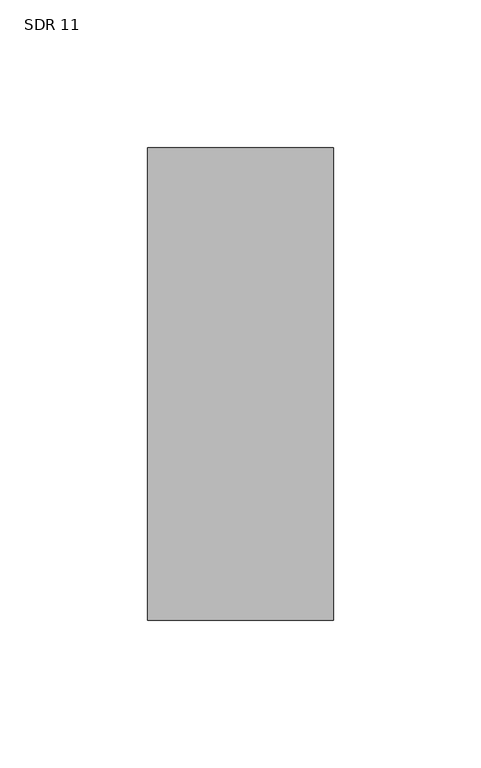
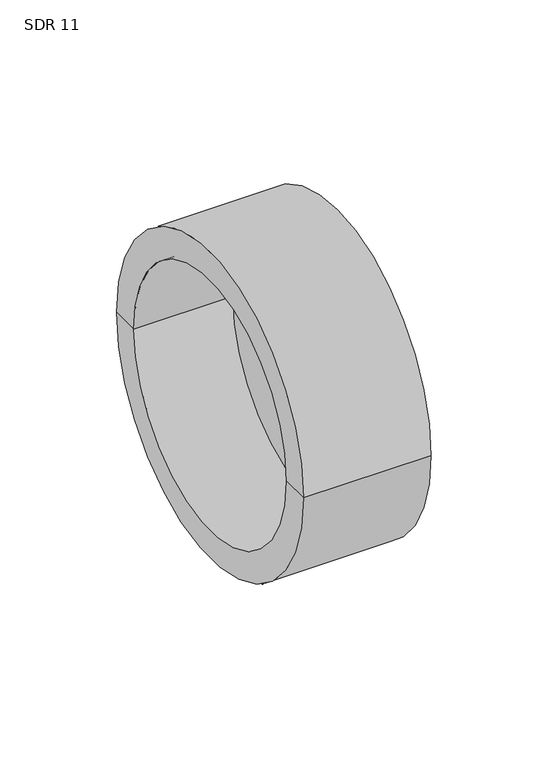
"""IFC4 building model written with IfcOpenShell, lengths in millimetres: pipe fitting geometry, Aquatherm - End Cap Butt-Weld : SDR 11."""

from ifc_helpers import new_model, si_unit, frame, origin, place, context, project, spatial, polyline, circle_curve, source, transform, mapped, element, save
from ifc_brep_helpers import plane_surface, cylinder_surface, revolved_surface, advanced_brep


def sdr_11_1a23142a(model_context):
    return source(origin(), model_context, "Body", "AdvancedBrep", [
        advanced_brep(
        [(62.992, -80.01, 0.0), (62.992, 80.01, 0.0), (62.992, 0.0, 0.0), (49.022, 0.0, 0.0), (49.022, 65.405, 0.0), (49.022, -65.405, 0.0), (0.0, 65.405, 0.0), (0.0, -65.405, 0.0), (0.0, 80.01, 0.0), (0.0, -80.01, 0.0)],
        [
            (0, 1, circle_curve(frame((62.992, 0.0, 0.0), z_axis=(1.0, 0.0, 0.0), x_axis=(0.0, 1.0, 0.0)), 80.01)),
            (1, 2),
            (2, 0),
            (1, 0, circle_curve(frame((62.992, 0.0, 0.0), z_axis=(1.0, 0.0, 0.0), x_axis=(0.0, 1.0, 0.0)), 80.01)),
            (3, 4),
            (4, 5, circle_curve(frame((49.022, 0.0, 0.0), z_axis=(-1.0, 0.0, 0.0), x_axis=(0.0, 1.0, 0.0)), 65.405)),
            (5, 3),
            (5, 4, circle_curve(frame((49.022, 0.0, 0.0), z_axis=(-1.0, 0.0, 0.0), x_axis=(0.0, 1.0, 0.0)), 65.405)),
            (4, 6),
            (6, 7, circle_curve(frame((0.0, 0.0, 0.0), z_axis=(-1.0, 0.0, 0.0), x_axis=(0.0, 1.0, 0.0)), 65.405)),
            (7, 5),
            (7, 6, circle_curve(frame((0.0, 0.0, 0.0), z_axis=(-1.0, 0.0, 0.0), x_axis=(0.0, 1.0, 0.0)), 65.405)),
            (6, 8),
            (8, 9, circle_curve(frame((0.0, 0.0, 0.0), z_axis=(-1.0, 0.0, 0.0), x_axis=(0.0, 1.0, 0.0)), 80.01)),
            (9, 7),
            (9, 8, circle_curve(frame((0.0, 0.0, 0.0), z_axis=(-1.0, 0.0, 0.0), x_axis=(0.0, 1.0, 0.0)), 80.01)),
            (8, 1),
            (0, 9),
        ],
        [
            plane_surface(frame((62.992, 0.0, 0.0), z_axis=(1.0, 0.0, 0.0), x_axis=(0.0, 1.0, 0.0))),
            plane_surface(frame((49.022, 0.0, 0.0), z_axis=(-1.0, 0.0, 0.0), x_axis=(0.0, 1.0, 0.0))),
            revolved_surface(polyline([(0.0, 65.405, 0.0), (49.021999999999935, 65.405, 0.0)]), (-1380.998, 0.0, 0.0), (-1.0, 0.0, 0.0)),
            plane_surface(frame((0.0, 0.0, 0.0), z_axis=(-1.0, 0.0, 0.0), x_axis=(0.0, 1.0, 0.0))),
            cylinder_surface(frame((-1380.998, 0.0, 0.0), z_axis=(-1.0, 0.0, 0.0), x_axis=(0.0, 1.0, 0.0)), 80.01),
        ],
        [
            (0, [[1, 2, 3]]),
            (0, [[4, -3, -2]]),
            (1, [[5, 6, 7]]),
            (1, [[-7, 8, -5]]),
            (2, [[-6, 9, 10, 11]]),
            (2, [[-8, -11, 12, -9]]),
            (3, [[-10, 13, 14, 15]]),
            (3, [[-12, -15, 16, -13]]),
            (4, [[-14, 17, -1, 18]]),
            (4, [[-16, -18, -4, -17]]),
        ],
    ),
    ])


if __name__ == "__main__":
    model = new_model("IFC4")
    model_context = context("Model", 3, world=origin())
    ifc_project = project(units=[si_unit("LENGTHUNIT", "METRE", prefix="MILLI")], contexts=[model_context])
    site = spatial("IfcSite", under=ifc_project)
    building = spatial("IfcBuilding", under=site)
    placement = place(None, origin())
    sdr_11_shape = sdr_11_1a23142a(model_context)
    element("IfcPipeFitting", 1, ObjectType="Aquatherm - End Cap Butt-Weld : SDR 11", at=placement, inside=building, context=model_context, shape_type="MappedRepresentation", body=[
        mapped(sdr_11_shape, transform((0.0, 0.0, 0.0), x_axis=(1.0, 0.0, 0.0), y_axis=(0.0, 1.0, 0.0), z_axis=(0.0, 0.0, 1.0))),
    ])
    save(model, "model.ifc")
